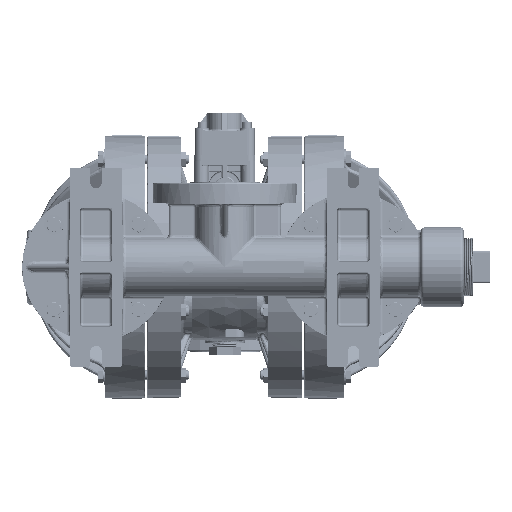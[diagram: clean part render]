
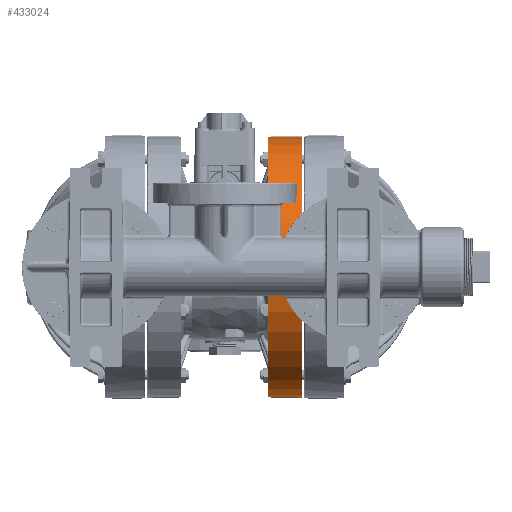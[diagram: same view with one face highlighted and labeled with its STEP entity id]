
A CAD part, front view. The second image highlights one B-rep face of the part: STEP entity #433024.
In plain terms, the highlighted conical face has half-angle 0.5 degrees and reference radius 135.858 mm.
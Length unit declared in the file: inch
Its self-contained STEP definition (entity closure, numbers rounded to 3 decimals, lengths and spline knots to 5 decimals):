
#6834 = CIRCLE ( 'NONE', #450994, 5.3437 ) ;
#14559 = CARTESIAN_POINT ( 'NONE',  ( 1.8945, -0.02629, 5.34363 ) ) ;
#17200 = LINE ( 'NONE', #640784, #560058 ) ;
#17832 = DIRECTION ( 'NONE',  ( 0., 0., 1. ) ) ;
#41063 = EDGE_CURVE ( 'NONE', #422805, #599421, #215465, .T. ) ;
#41495 = CARTESIAN_POINT ( 'NONE',  ( 1.8945, -0.02649, -5.34363 ) ) ;
#46919 = ORIENTED_EDGE ( 'NONE', *, *, #41063, .T. ) ;
#48014 = CIRCLE ( 'NONE', #524193, 5.35481 ) ;
#52723 = CARTESIAN_POINT ( 'NONE',  ( 2.31836, -0.02803, -5.34732 ) ) ;
#64305 = AXIS2_PLACEMENT_3D ( 'NONE', #514372, #660188, #300964 ) ;
#68685 = DIRECTION ( 'NONE',  ( 0., -0.006, 1. ) ) ;
#90117 = CARTESIAN_POINT ( 'NONE',  ( 3.16745, -5.35481, 0. ) ) ;
#93071 = CARTESIAN_POINT ( 'NONE',  ( 3.16745, 0., 0. ) ) ;
#94137 = CARTESIAN_POINT ( 'NONE',  ( 3.16745, -0.03092, 5.35472 ) ) ;
#110372 = VERTEX_POINT ( 'NONE', #519850 ) ;
#110749 = DIRECTION ( 'NONE',  ( 1., 0., 0. ) ) ;
#126280 = EDGE_CURVE ( 'NONE', #215942, #271675, #6834, .T. ) ;
#137826 = EDGE_LOOP ( 'NONE', ( #518947, #325683, #296814, #430805, #152375, #433037, #286587, #46919, #571553 ) ) ;
#144433 = CARTESIAN_POINT ( 'NONE',  ( 2.74268, -0.02958, -5.35102 ) ) ;
#152375 = ORIENTED_EDGE ( 'NONE', *, *, #182248, .T. ) ;
#154292 = CARTESIAN_POINT ( 'NONE',  ( 1.8945, 0., -5.3437 ) ) ;
#154968 = DIRECTION ( 'NONE',  ( 0., 0., 1. ) ) ;
#160423 = DIRECTION ( 'NONE',  ( 0., 0., -1. ) ) ;
#178086 = AXIS2_PLACEMENT_3D ( 'NONE', #619241, #110749, #154968 ) ;
#180340 = EDGE_CURVE ( 'NONE', #502637, #629108, #512393, .T. ) ;
#182248 = EDGE_CURVE ( 'NONE', #110372, #579895, #632814, .T. ) ;
#187771 = AXIS2_PLACEMENT_3D ( 'NONE', #380481, #224658, #68685 ) ;
#194960 = LINE ( 'NONE', #300028, #257968 ) ;
#198653 = CARTESIAN_POINT ( 'NONE',  ( 1.8945, -0.02649, -5.34363 ) ) ;
#201647 = DIRECTION ( 'NONE',  ( -1., 0., 0.009 ) ) ;
#205345 = CARTESIAN_POINT ( 'NONE',  ( 3.02582, -0.0306, -5.35348 ) ) ;
#215465 = B_SPLINE_CURVE_WITH_KNOTS ( 'NONE', 3,
 ( #198653, #466236, #52723, #144433, #205345, #354533 ),
 .UNSPECIFIED., .F., .F.,
 ( 4, 1, 1, 4 ),
 ( 0., 0.33333, 0.66667, 1. ),
 .UNSPECIFIED. ) ;
#215942 = VERTEX_POINT ( 'NONE', #358899 ) ;
#224658 = DIRECTION ( 'NONE',  ( 1., 0., 0. ) ) ;
#252746 = AXIS2_PLACEMENT_3D ( 'NONE', #367133, #577180, #160423 ) ;
#255696 = DIRECTION ( 'NONE',  ( 1., 0., 0. ) ) ;
#257968 = VECTOR ( 'NONE', #201647, 39.37008 ) ;
#271675 = VERTEX_POINT ( 'NONE', #14559 ) ;
#275469 = CARTESIAN_POINT ( 'NONE',  ( 1.8945, 0., 0. ) ) ;
#286587 = ORIENTED_EDGE ( 'NONE', *, *, #411272, .F. ) ;
#296814 = ORIENTED_EDGE ( 'NONE', *, *, #126280, .F. ) ;
#300028 = CARTESIAN_POINT ( 'NONE',  ( 1.8945, 0., -5.3437 ) ) ;
#300964 = DIRECTION ( 'NONE',  ( 0., -0.005, -1. ) ) ;
#319009 = DIRECTION ( 'NONE',  ( -1., 0., -0.009 ) ) ;
#321357 = CARTESIAN_POINT ( 'NONE',  ( 3.16745, -0.03112, -5.35472 ) ) ;
#325683 = ORIENTED_EDGE ( 'NONE', *, *, #328970, .F. ) ;
#328156 = EDGE_CURVE ( 'NONE', #380990, #579895, #194960, .T. ) ;
#328970 = EDGE_CURVE ( 'NONE', #271675, #502637, #520971, .T. ) ;
#347224 = EDGE_CURVE ( 'NONE', #215942, #110372, #17200, .T. ) ;
#351289 = CARTESIAN_POINT ( 'NONE',  ( 3.16745, -0.03092, 5.35472 ) ) ;
#354533 = CARTESIAN_POINT ( 'NONE',  ( 3.16745, -0.03112, -5.35472 ) ) ;
#358899 = CARTESIAN_POINT ( 'NONE',  ( 1.8945, 0., 5.3437 ) ) ;
#367133 = CARTESIAN_POINT ( 'NONE',  ( 2.47347, 0., 0. ) ) ;
#370471 = FACE_OUTER_BOUND ( 'NONE', #137826, .T. ) ;
#380481 = CARTESIAN_POINT ( 'NONE',  ( 3.16745, 0., 0. ) ) ;
#380990 = VERTEX_POINT ( 'NONE', #154292 ) ;
#398355 = CARTESIAN_POINT ( 'NONE',  ( 1.7795, 0., -5.3427 ) ) ;
#411272 = EDGE_CURVE ( 'NONE', #422805, #380990, #475564, .T. ) ;
#412571 = CARTESIAN_POINT ( 'NONE',  ( 3.02582, -0.0304, 5.35349 ) ) ;
#422805 = VERTEX_POINT ( 'NONE', #41495 ) ;
#430805 = ORIENTED_EDGE ( 'NONE', *, *, #347224, .T. ) ;
#433024 = ADVANCED_FACE ( 'NONE', ( #370471 ), #566708, .T. ) ;
#433037 = ORIENTED_EDGE ( 'NONE', *, *, #328156, .F. ) ;
#450994 = AXIS2_PLACEMENT_3D ( 'NONE', #275469, #482202, #17832 ) ;
#452410 = DIRECTION ( 'NONE',  ( 0., -1., 0. ) ) ;
#462319 = EDGE_CURVE ( 'NONE', #629108, #599421, #48014, .T. ) ;
#466236 = CARTESIAN_POINT ( 'NONE',  ( 2.03574, -0.02701, -5.34486 ) ) ;
#475564 = CIRCLE ( 'NONE', #64305, 5.3437 ) ;
#482202 = DIRECTION ( 'NONE',  ( 1., 0., 0. ) ) ;
#502637 = VERTEX_POINT ( 'NONE', #351289 ) ;
#512393 = CIRCLE ( 'NONE', #187771, 5.35481 ) ;
#514354 = CARTESIAN_POINT ( 'NONE',  ( 1.8945, -0.02629, 5.34363 ) ) ;
#514372 = CARTESIAN_POINT ( 'NONE',  ( 1.8945, 0., 0. ) ) ;
#518947 = ORIENTED_EDGE ( 'NONE', *, *, #180340, .F. ) ;
#519850 = CARTESIAN_POINT ( 'NONE',  ( 1.7795, 0., 5.3427 ) ) ;
#520971 = B_SPLINE_CURVE_WITH_KNOTS ( 'NONE', 3,
 ( #514354, #660171, #622630, #670209, #412571, #94137 ),
 .UNSPECIFIED., .F., .F.,
 ( 4, 1, 1, 4 ),
 ( 0., 0.33333, 0.66667, 1. ),
 .UNSPECIFIED. ) ;
#524193 = AXIS2_PLACEMENT_3D ( 'NONE', #93071, #255696, #452410 ) ;
#560058 = VECTOR ( 'NONE', #319009, 39.37008 ) ;
#566708 = CONICAL_SURFACE ( 'NONE', #252746, 5.34875, 0.009 ) ;
#571553 = ORIENTED_EDGE ( 'NONE', *, *, #462319, .F. ) ;
#577180 = DIRECTION ( 'NONE',  ( 1., 0., 0. ) ) ;
#579895 = VERTEX_POINT ( 'NONE', #398355 ) ;
#599421 = VERTEX_POINT ( 'NONE', #321357 ) ;
#619241 = CARTESIAN_POINT ( 'NONE',  ( 1.7795, 0., 0. ) ) ;
#622630 = CARTESIAN_POINT ( 'NONE',  ( 2.31836, -0.02783, 5.34733 ) ) ;
#629108 = VERTEX_POINT ( 'NONE', #90117 ) ;
#632814 = CIRCLE ( 'NONE', #178086, 5.3427 ) ;
#640784 = CARTESIAN_POINT ( 'NONE',  ( 1.8945, 0., 5.3437 ) ) ;
#660171 = CARTESIAN_POINT ( 'NONE',  ( 2.03574, -0.02681, 5.34486 ) ) ;
#660188 = DIRECTION ( 'NONE',  ( 1., 0., 0. ) ) ;
#670209 = CARTESIAN_POINT ( 'NONE',  ( 2.74268, -0.02938, 5.35102 ) ) ;
